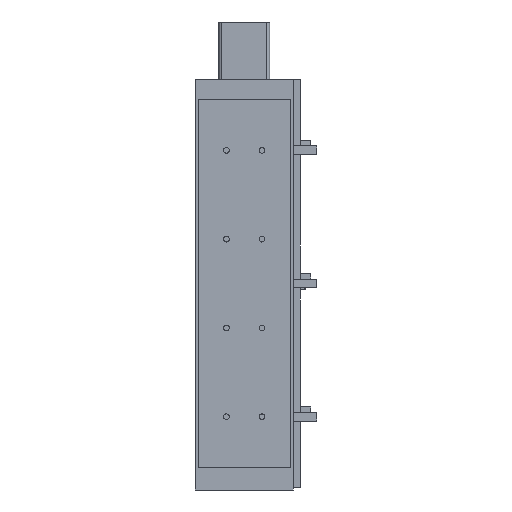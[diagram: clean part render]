
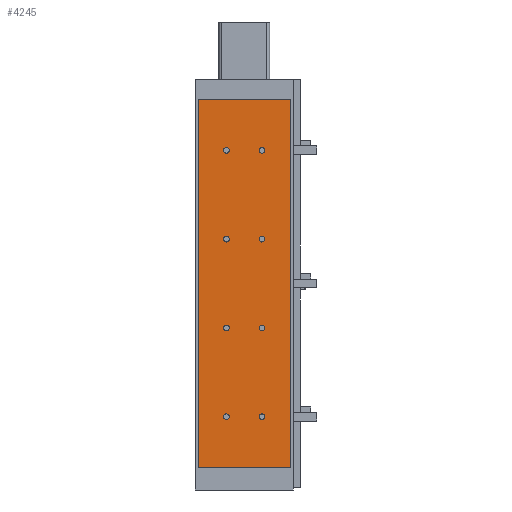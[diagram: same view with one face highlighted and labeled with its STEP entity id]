
A CAD part, front view. The second image highlights one B-rep face of the part: STEP entity #4245.
In plain terms, the highlighted planar face has unit normal (0, -1, 0).
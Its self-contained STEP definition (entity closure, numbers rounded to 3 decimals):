
#153=CARTESIAN_POINT('',(-23.25,0.,382.5));
#154=VERTEX_POINT('',#153);
#155=CARTESIAN_POINT('',(-20.,0.0,382.5));
#156=DIRECTION('',(0.0,1.0,0.0));
#157=DIRECTION('',(1.0,0.0,0.0));
#158=AXIS2_PLACEMENT_3D('',#155,#156,#157);
#159=CIRCLE('',#158,3.25);
#160=EDGE_CURVE('',#154,#154,#159,.T.);
#261=CARTESIAN_POINT('',(16.75,0.,382.5));
#262=VERTEX_POINT('',#261);
#263=CARTESIAN_POINT('',(20.,0.0,382.5));
#264=DIRECTION('',(0.0,1.0,0.0));
#265=DIRECTION('',(1.0,0.0,0.0));
#266=AXIS2_PLACEMENT_3D('',#263,#264,#265);
#267=CIRCLE('',#266,3.25);
#268=EDGE_CURVE('',#262,#262,#267,.T.);
#338=CARTESIAN_POINT('',(16.75,0.,82.5));
#339=VERTEX_POINT('',#338);
#340=CARTESIAN_POINT('',(20.,0.0,82.5));
#341=DIRECTION('',(0.0,1.0,0.0));
#342=DIRECTION('',(1.0,0.0,0.0));
#343=AXIS2_PLACEMENT_3D('',#340,#341,#342);
#344=CIRCLE('',#343,3.25);
#345=EDGE_CURVE('',#339,#339,#344,.T.);
#384=CARTESIAN_POINT('',(-23.25,0.,82.5));
#385=VERTEX_POINT('',#384);
#386=CARTESIAN_POINT('',(-20.,0.0,82.5));
#387=DIRECTION('',(0.0,1.0,0.0));
#388=DIRECTION('',(1.0,0.0,0.0));
#389=AXIS2_PLACEMENT_3D('',#386,#387,#388);
#390=CIRCLE('',#389,3.25);
#391=EDGE_CURVE('',#385,#385,#390,.T.);
#492=CARTESIAN_POINT('',(16.75,0.,282.5));
#493=VERTEX_POINT('',#492);
#494=CARTESIAN_POINT('',(20.,0.0,282.5));
#495=DIRECTION('',(0.0,1.0,0.0));
#496=DIRECTION('',(1.0,0.0,0.0));
#497=AXIS2_PLACEMENT_3D('',#494,#495,#496);
#498=CIRCLE('',#497,3.25);
#499=EDGE_CURVE('',#493,#493,#498,.T.);
#569=CARTESIAN_POINT('',(-23.25,0.,282.5));
#570=VERTEX_POINT('',#569);
#571=CARTESIAN_POINT('',(-20.,0.0,282.5));
#572=DIRECTION('',(0.0,1.0,0.0));
#573=DIRECTION('',(1.0,0.0,0.0));
#574=AXIS2_PLACEMENT_3D('',#571,#572,#573);
#575=CIRCLE('',#574,3.25);
#576=EDGE_CURVE('',#570,#570,#575,.T.);
#646=CARTESIAN_POINT('',(16.75,0.,182.5));
#647=VERTEX_POINT('',#646);
#648=CARTESIAN_POINT('',(20.,0.0,182.5));
#649=DIRECTION('',(0.0,1.0,0.0));
#650=DIRECTION('',(1.0,0.0,0.0));
#651=AXIS2_PLACEMENT_3D('',#648,#649,#650);
#652=CIRCLE('',#651,3.25);
#653=EDGE_CURVE('',#647,#647,#652,.T.);
#723=CARTESIAN_POINT('',(-23.25,0.,182.5));
#724=VERTEX_POINT('',#723);
#725=CARTESIAN_POINT('',(-20.,0.0,182.5));
#726=DIRECTION('',(0.0,1.0,0.0));
#727=DIRECTION('',(1.0,0.0,0.0));
#728=AXIS2_PLACEMENT_3D('',#725,#726,#727);
#729=CIRCLE('',#728,3.25);
#730=EDGE_CURVE('',#724,#724,#729,.T.);
#4142=CARTESIAN_POINT('',(52.,0.,25.));
#4143=VERTEX_POINT('',#4142);
#4150=CARTESIAN_POINT('',(-52.0,0.,25.));
#4151=VERTEX_POINT('',#4150);
#4152=CARTESIAN_POINT('',(-52.0,0.,25.));
#4153=DIRECTION('',(1.0,0.0,0.0));
#4154=VECTOR('',#4153,104.0);
#4155=LINE('',#4152,#4154);
#4156=EDGE_CURVE('',#4151,#4143,#4155,.T.);
#4173=CARTESIAN_POINT('',(-52.,0.,440.0));
#4174=VERTEX_POINT('',#4173);
#4175=CARTESIAN_POINT('',(-52.0,0.,25.));
#4176=DIRECTION('',(0.0,0.0,1.0));
#4177=VECTOR('',#4176,415.0);
#4178=LINE('',#4175,#4177);
#4179=EDGE_CURVE('',#4151,#4174,#4178,.T.);
#4198=CARTESIAN_POINT('',(52.0,0.,0.0));
#4199=DIRECTION('',(0.0,-1.0,0.0));
#4200=DIRECTION('',(0.0,0.0,-1.0));
#4201=AXIS2_PLACEMENT_3D('',#4198,#4199,#4200);
#4202=PLANE('',#4201);
#4203=ORIENTED_EDGE('',*,*,#4156,.T.);
#4204=CARTESIAN_POINT('',(52.,0.,440.0));
#4205=VERTEX_POINT('',#4204);
#4206=CARTESIAN_POINT('',(52.,0.,25.));
#4207=DIRECTION('',(0.0,0.0,1.0));
#4208=VECTOR('',#4207,415.0);
#4209=LINE('',#4206,#4208);
#4210=EDGE_CURVE('',#4143,#4205,#4209,.T.);
#4211=ORIENTED_EDGE('',*,*,#4210,.T.);
#4212=CARTESIAN_POINT('',(52.,0.,440.0));
#4213=DIRECTION('',(-1.0,0.0,0.0));
#4214=VECTOR('',#4213,104.);
#4215=LINE('',#4212,#4214);
#4216=EDGE_CURVE('',#4205,#4174,#4215,.T.);
#4217=ORIENTED_EDGE('',*,*,#4216,.T.);
#4218=ORIENTED_EDGE('',*,*,#4179,.F.);
#4219=EDGE_LOOP('',(#4203,#4211,#4217,#4218));
#4220=FACE_OUTER_BOUND('',#4219,.T.);
#4221=ORIENTED_EDGE('',*,*,#160,.T.);
#4222=EDGE_LOOP('',(#4221));
#4223=FACE_BOUND('',#4222,.T.);
#4224=ORIENTED_EDGE('',*,*,#268,.T.);
#4225=EDGE_LOOP('',(#4224));
#4226=FACE_BOUND('',#4225,.T.);
#4227=ORIENTED_EDGE('',*,*,#345,.T.);
#4228=EDGE_LOOP('',(#4227));
#4229=FACE_BOUND('',#4228,.T.);
#4230=ORIENTED_EDGE('',*,*,#391,.T.);
#4231=EDGE_LOOP('',(#4230));
#4232=FACE_BOUND('',#4231,.T.);
#4233=ORIENTED_EDGE('',*,*,#499,.T.);
#4234=EDGE_LOOP('',(#4233));
#4235=FACE_BOUND('',#4234,.T.);
#4236=ORIENTED_EDGE('',*,*,#576,.T.);
#4237=EDGE_LOOP('',(#4236));
#4238=FACE_BOUND('',#4237,.T.);
#4239=ORIENTED_EDGE('',*,*,#653,.T.);
#4240=EDGE_LOOP('',(#4239));
#4241=FACE_BOUND('',#4240,.T.);
#4242=ORIENTED_EDGE('',*,*,#730,.T.);
#4243=EDGE_LOOP('',(#4242));
#4244=FACE_BOUND('',#4243,.T.);
#4245=ADVANCED_FACE('',(#4220,#4223,#4226,#4229,#4232,#4235,#4238,#4241,#4244),#4202,.T.);
